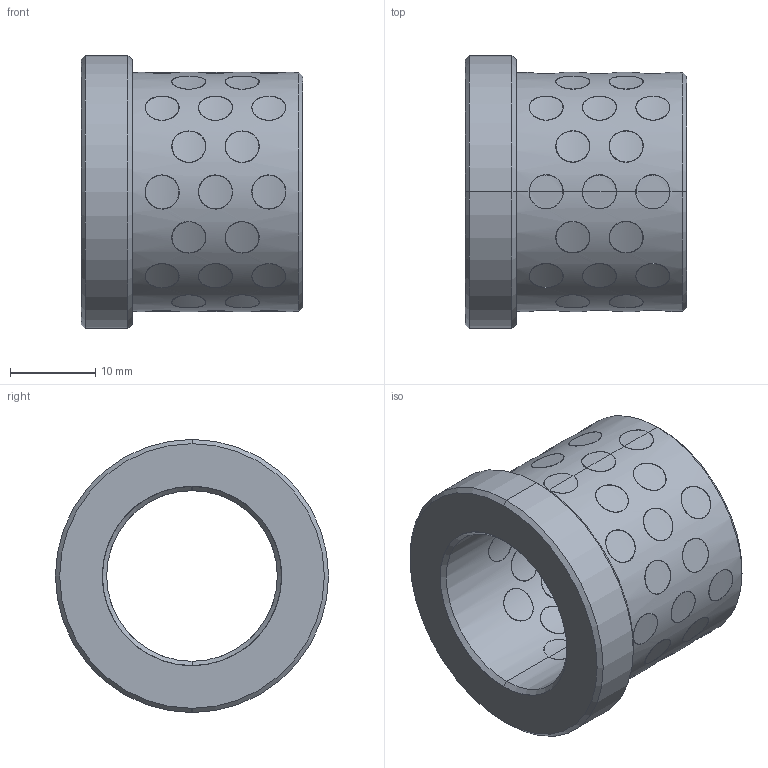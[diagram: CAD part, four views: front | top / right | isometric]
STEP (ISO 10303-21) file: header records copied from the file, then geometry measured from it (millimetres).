
FILE_DESCRIPTION(('CATIA V5 STEP Exchange'),'2;1');
FILE_NAME('C:\Users\Utente\Desktop\3D files G401\G4012026.stp','2020-04-22T08:37:11+00:00',('none'),('none'),'CATIA Version 5 Release 20 GA (IN-10)','CATIA V5 STEP AP203','none');
FILE_SCHEMA(('CONFIG_CONTROL_DESIGN'));
Length unit declared in the file: millimetre
Products named in the file (1): G4012026
Bounding box: 26 x 32 x 32 mm (x, y, z)
Surface area: 8854.1 mm2 (no closed solid volume)
Topology: 0 solids, 271 shells, 271 faces, 1180 edges, 1180 vertices
Faces by surface type: cylinder 258, revolution 10, plane 3
Entity records: 24159 total; most frequent: CARTESIAN_POINT 15937, ORIENTED_EDGE 1180, EDGE_CURVE 1180, VERTEX_POINT 1180, DIRECTION 969, B_SPLINE_CURVE_WITH_KNOTS 753, VECTOR 400, LINE 400
